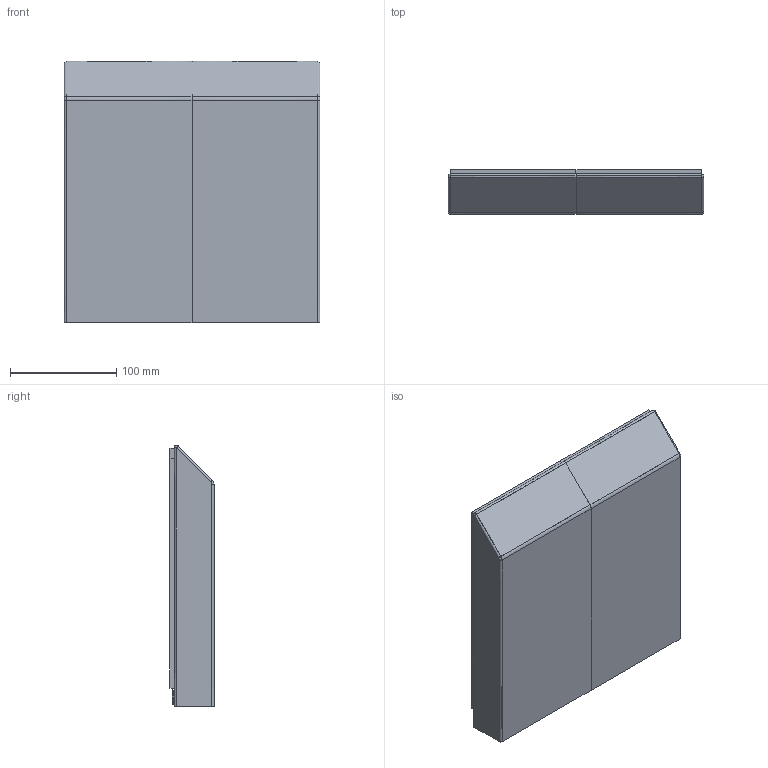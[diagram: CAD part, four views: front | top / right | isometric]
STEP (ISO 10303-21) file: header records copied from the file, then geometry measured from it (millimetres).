
FILE_DESCRIPTION(/* description */ (''),/* implementation_level */ '2;1');
FILE_NAME(/* name */ 'ssc-13',/* time_stamp */ '2019-05-16T10:18:42+02:00',/* author */ (''),/* organization */ (''),/* preprocessor_version */ 'ST-DEVELOPER v14',/* originating_system */ '',/* authorisation */ '');
FILE_SCHEMA (('AUTOMOTIVE_DESIGN'));
Length unit declared in the file: millimetre
Products named in the file (1): Document
Bounding box: 241 x 41.5 x 246 mm (x, y, z)
Volume: 35297.8 mm3; surface area: 223833.9 mm2
Topology: 2 solids, 3 shells, 156 faces, 373 edges, 223 vertices
Faces by surface type: bspline 108, plane 48
Entity records: 5482 total; most frequent: CARTESIAN_POINT 3309, ORIENTED_EDGE 748, EDGE_CURVE 375, VERTEX_POINT 223, ADVANCED_FACE 156, FACE_OUTER_BOUND 156, EDGE_LOOP 156, B_SPLINE_CURVE_WITH_KNOTS 128
